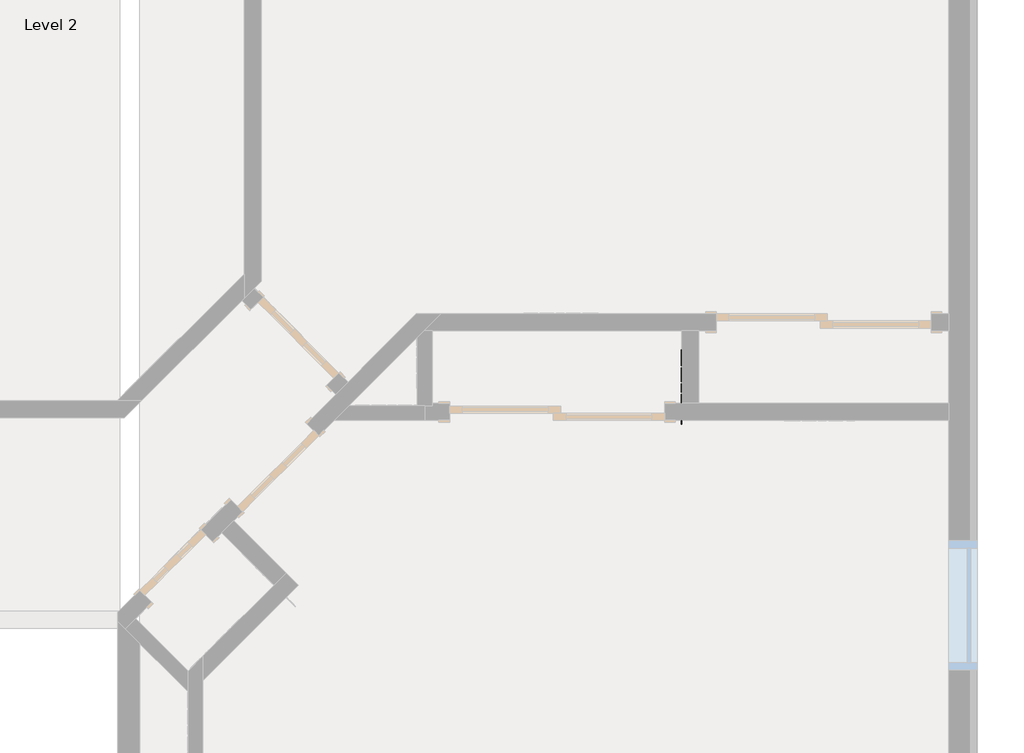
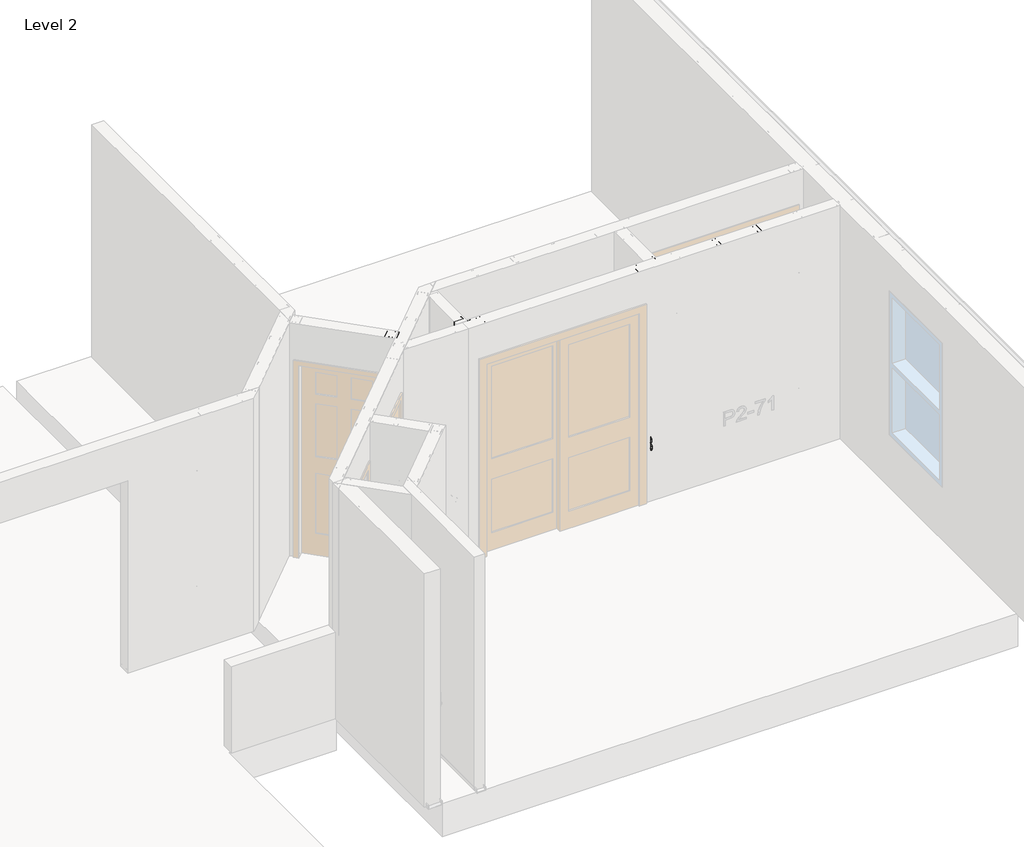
# One storey, part 40 of 46: 9 columns, 5 beams, 1 fastener.
"""IFC4 building model written with IfcOpenShell, lengths in millimetres."""

from ifc_helpers import new_model, si_unit, point, frame, origin, place, context, project, spatial, circle_curve, ellipse_curve, trimmed, transform, mapped, element, save
from ifc_brep_helpers import plane_surface, extruded_surface, advanced_brep
from components import beam_350nf150_33_f9f27d49, beam_350nf150_33_606cd853, beam_350nf150_33_bf93f831, beam_350nf150_33_fd0ba1fb, beam_350nf150_33_ba5f3ba1, column_350nf150_33_a93e9d8a, panellabel_073e6722

model = new_model("IFC4")

# Units and contexts
model_context = context("Model", 3, world=origin())
ifc_project = project(units=[si_unit("LENGTHUNIT", "METRE", prefix="MILLI")], contexts=[model_context])

# Site, building, storey
site = spatial("IfcSite", under=ifc_project)
building = spatial("IfcBuilding", under=site)
storey = spatial("IfcBuildingStorey", under=building, Name="Level 2", Elevation=3060.7)

# Beams
placement = place(None, origin())
beam_350nf150_33_shape = beam_350nf150_33_f9f27d49(model_context)
element("IfcBeam", 1, ObjectType="BIMSF-SSMA-S : 350NF150-33", at=placement, inside=storey, context=model_context, shape_type="MappedRepresentation", body=[
    mapped(beam_350nf150_33_shape, transform((-4226.9731197, 9615.2035298, 3076.575), x_axis=(-1.0000000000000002, 0.0, 0.0), y_axis=(0.0, 0.0, -1.0000000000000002), z_axis=(0.0, -1.0000000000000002, 0.0))),
])
beam_350nf150_33_2_shape = beam_350nf150_33_606cd853(model_context)
element("IfcBeam", 2, ObjectType="BIMSF-SSMA-S : 350NF150-33", at=placement, inside=storey, context=model_context, shape_type="MappedRepresentation", body=[
    mapped(beam_350nf150_33_2_shape, transform((-6832.1861545, 9615.2035298, 3076.575), x_axis=(-1.0000000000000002, 0.0, 0.0), y_axis=(0.0, 0.0, -1.0000000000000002), z_axis=(0.0, -1.0000000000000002, 0.0))),
])
beam_350nf150_33_3_shape = beam_350nf150_33_bf93f831(model_context)
element("IfcBeam", 3, ObjectType="BIMSF-SSMA-S : 350NF150-33", at=placement, inside=storey, context=model_context, shape_type="MappedRepresentation", body=[
    mapped(beam_350nf150_33_3_shape, transform((-6950.4549045, 9935.1465154, 3076.575), x_axis=(0.0, -1.0000000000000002, 0.0), y_axis=(0.0, 0.0, -1.0000000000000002), z_axis=(1.0000000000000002, 0.0, 0.0))),
])
beam_350nf150_33_4_shape = beam_350nf150_33_fd0ba1fb(model_context)
element("IfcBeam", 4, ObjectType="BIMSF-SSMA-S : 350NF150-33", at=placement, inside=storey, context=model_context, shape_type="MappedRepresentation", body=[
    mapped(beam_350nf150_33_4_shape, transform((-5058.8231197, 9933.1621404, 3076.575), x_axis=(0.0, 1.0000000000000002, 0.0), y_axis=(0.0, 0.0, -1.0000000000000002), z_axis=(-1.0000000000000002, 0.0, 0.0))),
])
beam_350nf150_33_5_shape = beam_350nf150_33_ba5f3ba1(model_context)
element("IfcBeam", 5, ObjectType="BIMSF-SSMA-S : 350NF150-33", at=placement, inside=storey, context=model_context, shape_type="MappedRepresentation", body=[
    mapped(beam_350nf150_33_5_shape, transform((-7556.204928, 9809.542735, 3076.575), x_axis=(0.7071067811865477, -0.7071067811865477, 0.0), y_axis=(0.0, 0.0, -1.0000000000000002), z_axis=(0.7071067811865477, 0.7071067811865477, 0.0))),
])

# Columns
element("IfcColumn", 6, ObjectType="BIMSF-SSMA-S-Column : 350NF150-33", at=placement, inside=storey, context=model_context, shape_type="AdvancedBrep", body=[
    advanced_brep(
    [(-6898.0674045, 9570.7535298, 3061.5929687), (-6898.0674045, 9659.6535298, 3061.5929687), (-6859.9674045, 9659.6535298, 3061.5929687), (-6859.9674045, 9653.996014, 3061.5929687), (-6860.8497203, 9653.996014, 3061.5929687), (-6860.8497203, 9658.771214, 3061.5929687), (-6897.1850887, 9658.771214, 3061.5929687), (-6897.1850887, 9571.6358455, 3061.5929687), (-6860.8497203, 9571.6358455, 3061.5929687), (-6860.8497203, 9576.4110455, 3061.5929687), (-6859.9674045, 9576.4110455, 3061.5929687), (-6859.9674045, 9570.7535298, 3061.5929687), (-6898.0674045, 9570.7535298, 5523.6070313), (-6898.0674045, 9659.6535298, 5523.6070313), (-6898.0674045, 9627.9035298, 3671.1929687), (-6898.0674045, 9602.5035298, 3671.1929688), (-6898.0674045, 9627.9035298, 4890.3929687), (-6898.0674045, 9602.5035298, 4890.3929687), (-6859.9674045, 9659.6535298, 5523.6070313), (-6859.9674045, 9653.996014, 5523.6070313), (-6860.8497203, 9653.996014, 5523.6070313), (-6860.8497203, 9658.771214, 5523.6070313), (-6897.1850887, 9658.771214, 5523.6070313), (-6897.1850887, 9571.6358455, 5523.6070313), (-6897.1850887, 9602.5035298, 3671.1929688), (-6897.1850887, 9627.9035298, 3671.1929688), (-6897.1850887, 9602.5035298, 4890.3929687), (-6897.1850887, 9627.9035298, 4890.3929687), (-6860.8497203, 9571.6358455, 5523.6070313), (-6860.8497203, 9576.4110455, 5523.6070313), (-6859.9674045, 9576.4110455, 5523.6070313), (-6859.9674045, 9570.7535298, 5523.6070313)],
    [
        (0, 1),
        (1, 2),
        (2, 3),
        (3, 4),
        (4, 5),
        (5, 6),
        (6, 7),
        (7, 8),
        (8, 9),
        (9, 10),
        (10, 11),
        (11, 0),
        (0, 12),
        (12, 13),
        (13, 1),
        (14, 15, circle_curve(frame((-6898.0674045, 9615.2035298, 3671.1929687), z_axis=(1.0, 0.0, 0.0), x_axis=(0.0, 1.0, 0.0)), 12.7)),
        (15, 14, circle_curve(frame((-6898.0674045, 9615.2035298, 3671.1929687), z_axis=(1.0, 0.0, 0.0), x_axis=(0.0, 1.0, 0.0)), 12.7)),
        (16, 17, circle_curve(frame((-6898.0674045, 9615.2035298, 4890.3929687), z_axis=(1.0, 0.0, 0.0), x_axis=(0.0, 1.0, 0.0)), 12.7)),
        (17, 16, circle_curve(frame((-6898.0674045, 9615.2035298, 4890.3929687), z_axis=(1.0, 0.0, 0.0), x_axis=(0.0, 1.0, 0.0)), 12.7)),
        (13, 18),
        (18, 2),
        (18, 19),
        (19, 3),
        (19, 20),
        (20, 4),
        (20, 21),
        (21, 5),
        (21, 22),
        (22, 6),
        (22, 23),
        (23, 7),
        (24, 25, circle_curve(frame((-6897.1850887, 9615.2035298, 3671.1929688), z_axis=(-1.0, 0.0, 0.0), x_axis=(0.0, 1.0, 0.0)), 12.7)),
        (25, 24, circle_curve(frame((-6897.1850887, 9615.2035298, 3671.1929687), z_axis=(-1.0, 0.0, 0.0), x_axis=(0.0, 1.0, 0.0)), 12.7)),
        (26, 27, circle_curve(frame((-6897.1850887, 9615.2035298, 4890.3929687), z_axis=(-1.0, 0.0, 0.0), x_axis=(0.0, 1.0, 0.0)), 12.7)),
        (27, 26, circle_curve(frame((-6897.1850887, 9615.2035298, 4890.3929687), z_axis=(-1.0, 0.0, 0.0), x_axis=(0.0, 1.0, 0.0)), 12.7)),
        (23, 28),
        (28, 8),
        (28, 29),
        (29, 9),
        (29, 30),
        (30, 10),
        (30, 31),
        (31, 11),
        (31, 12),
        (24, 15),
        (14, 25),
        (26, 17),
        (16, 27),
    ],
    [
        plane_surface(frame((-6898.0674045, 9570.7535298, 3061.5929687), z_axis=(0.0, 0.0, -1.0), x_axis=(-1.0, 0.0, 0.0))),
        plane_surface(frame((-6898.0674045, 9659.6535298, 5523.6070313), z_axis=(-1.0, 0.0, 0.0), x_axis=(0.0, 0.0, -1.0))),
        plane_surface(frame((-6859.9674045, 9659.6535298, 5523.6070313), z_axis=(0.0, 1.0, 0.0), x_axis=(0.0, 0.0, -1.0))),
        plane_surface(frame((-6859.9674045, 9653.996014, 5523.6070313), z_axis=(1.0, 0.0, 0.0), x_axis=(0.0, 0.0, -1.0))),
        plane_surface(frame((-6860.8497203, 9653.996014, 5523.6070313), z_axis=(0.0, -1.0, 0.0), x_axis=(0.0, 0.0, -1.0))),
        plane_surface(frame((-6860.8497203, 9658.771214, 5523.6070313), z_axis=(-1.0, 0.0, 0.0), x_axis=(0.0, 0.0, -1.0))),
        plane_surface(frame((-6897.1850887, 9658.771214, 5523.6070313), z_axis=(0.0, -1.0, 0.0), x_axis=(0.0, 0.0, -1.0))),
        plane_surface(frame((-6897.1850887, 9571.6358455, 5523.6070313), z_axis=(1.0, 0.0, 0.0), x_axis=(0.0, 0.0, -1.0))),
        plane_surface(frame((-6860.8497203, 9571.6358455, 5523.6070313), z_axis=(0.0, 1.0, 0.0), x_axis=(0.0, 0.0, -1.0))),
        plane_surface(frame((-6860.8497203, 9576.4110455, 5523.6070313), z_axis=(-1.0, 0.0, 0.0), x_axis=(0.0, 0.0, -1.0))),
        plane_surface(frame((-6859.9674045, 9576.4110455, 5523.6070313), z_axis=(0.0, 1.0, 0.0), x_axis=(0.0, 0.0, -1.0))),
        plane_surface(frame((-6859.9674045, 9570.7535298, 5523.6070313), z_axis=(1.0, 0.0, 0.0), x_axis=(0.0, 0.0, -1.0))),
        plane_surface(frame((-6898.0674045, 9570.7535298, 5523.6070313), z_axis=(0.0, -1.0, 0.0), x_axis=(0.0, 0.0, -1.0))),
        plane_surface(frame((-6898.0674045, 9570.7535298, 5523.6070313), z_axis=(0.0, 0.0, 1.0), x_axis=(1.0, 0.0, 0.0))),
        extruded_surface(trimmed(ellipse_curve(frame((-4417.003342, 9615.2035298, 3671.1929688), z_axis=(-1.0, 0.0, 0.0), x_axis=(0.0, 1.0, 0.0)), 12.7, 12.7), [point((-4417.003342, 9602.5035298, 3671.1929688))], [point((-4417.003342, 9627.9035298, 3671.1929688))], True, "CARTESIAN"), (4924.028125, 0.0, 0.0), 4924.028125),
        extruded_surface(trimmed(ellipse_curve(frame((-4417.003342, 9615.2035298, 3671.1929688), z_axis=(-1.0, 0.0, 0.0), x_axis=(0.0, 1.0, 0.0)), 12.7, 12.7), [point((-4417.003342, 9627.9035298, 3671.1929688))], [point((-4417.003342, 9602.5035298, 3671.1929688))], True, "CARTESIAN"), (4924.028125, 0.0, 0.0), 4924.028125),
        extruded_surface(trimmed(ellipse_curve(frame((-4417.003342, 9615.2035298, 4890.3929687), z_axis=(-1.0, 0.0, 0.0), x_axis=(0.0, 1.0, 0.0)), 12.7, 12.7), [point((-4417.003342, 9602.5035298, 4890.3929687))], [point((-4417.003342, 9627.9035298, 4890.3929687))], True, "CARTESIAN"), (4924.028125, 0.0, 0.0), 4924.028125),
        extruded_surface(trimmed(ellipse_curve(frame((-4417.003342, 9615.2035298, 4890.3929687), z_axis=(-1.0, 0.0, 0.0), x_axis=(0.0, 1.0, 0.0)), 12.7, 12.7), [point((-4417.003342, 9627.9035298, 4890.3929687))], [point((-4417.003342, 9602.5035298, 4890.3929687))], True, "CARTESIAN"), (4924.028125, 0.0, 0.0), 4924.028125),
    ],
    [
        (0, [[1, 2, 3, 4, 5, 6, 7, 8, 9, 10, 11, 12]]),
        (1, [[-1, 13, 14, 15], [16, 17], [18, 19]]),
        (2, [[-2, -15, 20, 21]]),
        (3, [[-3, -21, 22, 23]]),
        (4, [[-4, -23, 24, 25]]),
        (5, [[-5, -25, 26, 27]]),
        (6, [[-6, -27, 28, 29]]),
        (7, [[-7, -29, 30, 31], [32, 33], [34, 35]]),
        (8, [[-8, -31, 36, 37]]),
        (9, [[-9, -37, 38, 39]]),
        (10, [[-10, -39, 40, 41]]),
        (11, [[-11, -41, 42, 43]]),
        (12, [[-12, -43, 44, -13]]),
        (13, [[-14, -44, -42, -40, -38, -36, -30, -28, -26, -24, -22, -20]]),
        (14, [[45, -16, 46, -32]]),
        (15, [[-45, -33, -46, -17]]),
        (16, [[47, -18, 48, -34]]),
        (17, [[-47, -35, -48, -19]]),
    ],
),
])
element("IfcColumn", 7, ObjectType="BIMSF-SSMA-S-Column : 350NF150-33", at=placement, inside=storey, context=model_context, shape_type="AdvancedBrep", body=[
    advanced_brep(
    [(-4005.3913349, 9659.6535298, 3061.5929687), (-4005.3913349, 9570.7535298, 3061.5929687), (-4043.4913349, 9570.7535298, 3061.5929687), (-4043.4913349, 9576.4110455, 3061.5929687), (-4042.6090191, 9576.4110455, 3061.5929687), (-4042.6090191, 9571.6358455, 3061.5929687), (-4006.2736507, 9571.6358455, 3061.5929687), (-4006.2736507, 9658.771214, 3061.5929687), (-4042.6090191, 9658.771214, 3061.5929687), (-4042.6090191, 9653.996014, 3061.5929687), (-4043.4913349, 9653.996014, 3061.5929687), (-4043.4913349, 9659.6535298, 3061.5929687), (-4005.3913349, 9659.6535298, 5523.6070313), (-4005.3913349, 9570.7535298, 5523.6070313), (-4005.3913349, 9602.5035298, 3671.1929688), (-4005.3913349, 9627.9035298, 3671.1929687), (-4005.3913349, 9602.5035298, 4890.3929688), (-4005.3913349, 9627.9035298, 4890.3929687), (-4043.4913349, 9570.7535298, 5523.6070313), (-4043.4913349, 9576.4110455, 5523.6070313), (-4042.6090191, 9576.4110455, 5523.6070313), (-4042.6090191, 9571.6358455, 5523.6070313), (-4006.2736507, 9571.6358455, 5523.6070313), (-4006.2736507, 9658.771214, 5523.6070313), (-4006.2736507, 9627.9035298, 3671.1929687), (-4006.2736507, 9602.5035298, 3671.1929688), (-4006.2736507, 9627.9035298, 4890.3929687), (-4006.2736507, 9602.5035298, 4890.3929688), (-4042.6090191, 9658.771214, 5523.6070313), (-4042.6090191, 9653.996014, 5523.6070313), (-4043.4913349, 9653.996014, 5523.6070313), (-4043.4913349, 9659.6535298, 5523.6070313)],
    [
        (0, 1),
        (1, 2),
        (2, 3),
        (3, 4),
        (4, 5),
        (5, 6),
        (6, 7),
        (7, 8),
        (8, 9),
        (9, 10),
        (10, 11),
        (11, 0),
        (0, 12),
        (12, 13),
        (13, 1),
        (14, 15, circle_curve(frame((-4005.3913349, 9615.2035298, 3671.1929687), z_axis=(-1.0, 0.0, 0.0), x_axis=(0.0, -1.0, 0.0)), 12.7)),
        (15, 14, circle_curve(frame((-4005.3913349, 9615.2035298, 3671.1929687), z_axis=(-1.0, 0.0, 0.0), x_axis=(0.0, -1.0, 0.0)), 12.7)),
        (16, 17, circle_curve(frame((-4005.3913349, 9615.2035298, 4890.3929687), z_axis=(-1.0, 0.0, 0.0), x_axis=(0.0, -1.0, 0.0)), 12.7)),
        (17, 16, circle_curve(frame((-4005.3913349, 9615.2035298, 4890.3929687), z_axis=(-1.0, 0.0, 0.0), x_axis=(0.0, -1.0, 0.0)), 12.7)),
        (13, 18),
        (18, 2),
        (18, 19),
        (19, 3),
        (19, 20),
        (20, 4),
        (20, 21),
        (21, 5),
        (21, 22),
        (22, 6),
        (22, 23),
        (23, 7),
        (24, 25, circle_curve(frame((-4006.2736507, 9615.2035298, 3671.1929688), z_axis=(1.0, 0.0, 0.0), x_axis=(0.0, -1.0, 0.0)), 12.7)),
        (25, 24, circle_curve(frame((-4006.2736507, 9615.2035298, 3671.1929688), z_axis=(1.0, 0.0, 0.0), x_axis=(0.0, -1.0, 0.0)), 12.7)),
        (26, 27, circle_curve(frame((-4006.2736507, 9615.2035298, 4890.3929687), z_axis=(1.0, 0.0, 0.0), x_axis=(0.0, -1.0, 0.0)), 12.7)),
        (27, 26, circle_curve(frame((-4006.2736507, 9615.2035298, 4890.3929687), z_axis=(1.0, 0.0, 0.0), x_axis=(0.0, -1.0, 0.0)), 12.7)),
        (23, 28),
        (28, 8),
        (28, 29),
        (29, 9),
        (29, 30),
        (30, 10),
        (30, 31),
        (31, 11),
        (31, 12),
        (24, 15),
        (14, 25),
        (26, 17),
        (16, 27),
    ],
    [
        plane_surface(frame((-4005.3913349, 9659.6535298, 3061.5929687), z_axis=(0.0, 0.0, -1.0), x_axis=(1.0, 0.0, 0.0))),
        plane_surface(frame((-4005.3913349, 9570.7535298, 5523.6070313), z_axis=(1.0, 0.0, 0.0), x_axis=(0.0, 0.0, -1.0))),
        plane_surface(frame((-4043.4913349, 9570.7535298, 5523.6070313), z_axis=(0.0, -1.0, 0.0), x_axis=(0.0, 0.0, -1.0))),
        plane_surface(frame((-4043.4913349, 9576.4110455, 5523.6070313), z_axis=(-1.0, 0.0, 0.0), x_axis=(0.0, 0.0, -1.0))),
        plane_surface(frame((-4042.6090191, 9576.4110455, 5523.6070313), z_axis=(0.0, 1.0, 0.0), x_axis=(0.0, 0.0, -1.0))),
        plane_surface(frame((-4042.6090191, 9571.6358455, 5523.6070313), z_axis=(1.0, 0.0, 0.0), x_axis=(0.0, 0.0, -1.0))),
        plane_surface(frame((-4006.2736507, 9571.6358455, 5523.6070313), z_axis=(0.0, 1.0, 0.0), x_axis=(0.0, 0.0, -1.0))),
        plane_surface(frame((-4006.2736507, 9658.771214, 5523.6070313), z_axis=(-1.0, 0.0, 0.0), x_axis=(0.0, 0.0, -1.0))),
        plane_surface(frame((-4042.6090191, 9658.771214, 5523.6070313), z_axis=(0.0, -1.0, 0.0), x_axis=(0.0, 0.0, -1.0))),
        plane_surface(frame((-4042.6090191, 9653.996014, 5523.6070313), z_axis=(1.0, 0.0, 0.0), x_axis=(0.0, 0.0, -1.0))),
        plane_surface(frame((-4043.4913349, 9653.996014, 5523.6070313), z_axis=(0.0, -1.0, 0.0), x_axis=(0.0, 0.0, -1.0))),
        plane_surface(frame((-4043.4913349, 9659.6535298, 5523.6070313), z_axis=(-1.0, 0.0, 0.0), x_axis=(0.0, 0.0, -1.0))),
        plane_surface(frame((-4005.3913349, 9659.6535298, 5523.6070313), z_axis=(0.0, 1.0, 0.0), x_axis=(0.0, 0.0, -1.0))),
        plane_surface(frame((-4005.3913349, 9659.6535298, 5523.6070313), z_axis=(0.0, 0.0, 1.0), x_axis=(-1.0, 0.0, 0.0))),
        extruded_surface(trimmed(ellipse_curve(frame((-6486.4553974, 9615.2035298, 3671.1929688), z_axis=(1.0, 0.0, 0.0), x_axis=(0.0, -1.0, 0.0)), 12.7, 12.7), [point((-6486.4553974, 9627.9035298, 3671.1929688))], [point((-6486.4553974, 9602.5035298, 3671.1929688))], True, "CARTESIAN"), (-4924.028125, 0.0, 0.0), 4924.028125),
        extruded_surface(trimmed(ellipse_curve(frame((-6486.4553974, 9615.2035298, 3671.1929688), z_axis=(1.0, 0.0, 0.0), x_axis=(0.0, -1.0, 0.0)), 12.7, 12.7), [point((-6486.4553974, 9602.5035298, 3671.1929688))], [point((-6486.4553974, 9627.9035298, 3671.1929688))], True, "CARTESIAN"), (-4924.028125, 0.0, 0.0), 4924.028125),
        extruded_surface(trimmed(ellipse_curve(frame((-6486.4553974, 9615.2035298, 4890.3929687), z_axis=(1.0, 0.0, 0.0), x_axis=(0.0, -1.0, 0.0)), 12.7, 12.7), [point((-6486.4553974, 9627.9035298, 4890.3929687))], [point((-6486.4553974, 9602.5035298, 4890.3929687))], True, "CARTESIAN"), (-4924.028125, 0.0, 0.0), 4924.028125),
        extruded_surface(trimmed(ellipse_curve(frame((-6486.4553974, 9615.2035298, 4890.3929687), z_axis=(1.0, 0.0, 0.0), x_axis=(0.0, -1.0, 0.0)), 12.7, 12.7), [point((-6486.4553974, 9602.5035298, 4890.3929687))], [point((-6486.4553974, 9627.9035298, 4890.3929687))], True, "CARTESIAN"), (-4924.028125, 0.0, 0.0), 4924.028125),
    ],
    [
        (0, [[1, 2, 3, 4, 5, 6, 7, 8, 9, 10, 11, 12]]),
        (1, [[-1, 13, 14, 15], [16, 17], [18, 19]]),
        (2, [[-2, -15, 20, 21]]),
        (3, [[-3, -21, 22, 23]]),
        (4, [[-4, -23, 24, 25]]),
        (5, [[-5, -25, 26, 27]]),
        (6, [[-6, -27, 28, 29]]),
        (7, [[-7, -29, 30, 31], [32, 33], [34, 35]]),
        (8, [[-8, -31, 36, 37]]),
        (9, [[-9, -37, 38, 39]]),
        (10, [[-10, -39, 40, 41]]),
        (11, [[-11, -41, 42, 43]]),
        (12, [[-12, -43, 44, -13]]),
        (13, [[-14, -44, -42, -40, -38, -36, -30, -28, -26, -24, -22, -20]]),
        (14, [[45, -16, 46, -32]]),
        (15, [[-45, -33, -46, -17]]),
        (16, [[47, -18, 48, -34]]),
        (17, [[-47, -35, -48, -19]]),
    ],
),
])
element("IfcColumn", 8, ObjectType="BIMSF-SSMA-S-Column : 350NF150-33", at=placement, inside=storey, context=model_context, shape_type="AdvancedBrep", body=[
    advanced_brep(
    [(-4411.7913349, 9659.6535298, 3061.5929687), (-4411.7913349, 9570.7535298, 3061.5929687), (-4449.8913349, 9570.7535298, 3061.5929687), (-4449.8913349, 9576.4110455, 3061.5929687), (-4449.0090191, 9576.4110455, 3061.5929687), (-4449.0090191, 9571.6358455, 3061.5929687), (-4412.6736507, 9571.6358455, 3061.5929687), (-4412.6736507, 9658.771214, 3061.5929687), (-4449.0090191, 9658.771214, 3061.5929687), (-4449.0090191, 9653.996014, 3061.5929687), (-4449.8913349, 9653.996014, 3061.5929687), (-4449.8913349, 9659.6535298, 3061.5929687), (-4411.7913349, 9659.6535298, 5523.6070313), (-4411.7913349, 9570.7535298, 5523.6070313), (-4411.7913349, 9602.5035298, 3671.1929688), (-4411.7913349, 9627.9035298, 3671.1929688), (-4411.7913349, 9602.5035298, 4890.3929687), (-4411.7913349, 9627.9035298, 4890.3929687), (-4449.8913349, 9570.7535298, 5523.6070313), (-4449.8913349, 9576.4110455, 5523.6070313), (-4449.0090191, 9576.4110455, 5523.6070313), (-4449.0090191, 9571.6358455, 5523.6070313), (-4412.6736507, 9571.6358455, 5523.6070313), (-4412.6736507, 9658.771214, 5523.6070313), (-4412.6736507, 9627.9035298, 3671.1929688), (-4412.6736507, 9602.5035298, 3671.1929688), (-4412.6736507, 9627.9035298, 4890.3929688), (-4412.6736507, 9602.5035298, 4890.3929688), (-4449.0090191, 9658.771214, 5523.6070313), (-4449.0090191, 9653.996014, 5523.6070313), (-4449.8913349, 9653.996014, 5523.6070313), (-4449.8913349, 9659.6535298, 5523.6070313)],
    [
        (0, 1),
        (1, 2),
        (2, 3),
        (3, 4),
        (4, 5),
        (5, 6),
        (6, 7),
        (7, 8),
        (8, 9),
        (9, 10),
        (10, 11),
        (11, 0),
        (0, 12),
        (12, 13),
        (13, 1),
        (14, 15, circle_curve(frame((-4411.7913349, 9615.2035298, 3671.1929688), z_axis=(-1.0, 0.0, 0.0), x_axis=(0.0, -1.0, 0.0)), 12.7)),
        (15, 14, circle_curve(frame((-4411.7913349, 9615.2035298, 3671.1929688), z_axis=(-1.0, 0.0, 0.0), x_axis=(0.0, -1.0, 0.0)), 12.7)),
        (16, 17, circle_curve(frame((-4411.7913349, 9615.2035298, 4890.3929688), z_axis=(-1.0, 0.0, 0.0), x_axis=(0.0, -1.0, 0.0)), 12.7)),
        (17, 16, circle_curve(frame((-4411.7913349, 9615.2035298, 4890.3929688), z_axis=(-1.0, 0.0, 0.0), x_axis=(0.0, -1.0, 0.0)), 12.7)),
        (13, 18),
        (18, 2),
        (18, 19),
        (19, 3),
        (19, 20),
        (20, 4),
        (20, 21),
        (21, 5),
        (21, 22),
        (22, 6),
        (22, 23),
        (23, 7),
        (24, 25, circle_curve(frame((-4412.6736507, 9615.2035298, 3671.1929688), z_axis=(1.0, 0.0, 0.0), x_axis=(0.0, -1.0, 0.0)), 12.7)),
        (25, 24, circle_curve(frame((-4412.6736507, 9615.2035298, 3671.1929688), z_axis=(1.0, 0.0, 0.0), x_axis=(0.0, -1.0, 0.0)), 12.7)),
        (26, 27, circle_curve(frame((-4412.6736507, 9615.2035298, 4890.3929687), z_axis=(1.0, 0.0, 0.0), x_axis=(0.0, -1.0, 0.0)), 12.7)),
        (27, 26, circle_curve(frame((-4412.6736507, 9615.2035298, 4890.3929687), z_axis=(1.0, 0.0, 0.0), x_axis=(0.0, -1.0, 0.0)), 12.7)),
        (23, 28),
        (28, 8),
        (28, 29),
        (29, 9),
        (29, 30),
        (30, 10),
        (30, 31),
        (31, 11),
        (31, 12),
        (24, 15),
        (14, 25),
        (26, 17),
        (16, 27),
    ],
    [
        plane_surface(frame((-4411.7913349, 9659.6535298, 3061.5929687), z_axis=(0.0, 0.0, -1.0), x_axis=(1.0, 0.0, 0.0))),
        plane_surface(frame((-4411.7913349, 9570.7535298, 5523.6070313), z_axis=(1.0, 0.0, 0.0), x_axis=(0.0, 0.0, -1.0))),
        plane_surface(frame((-4449.8913349, 9570.7535298, 5523.6070313), z_axis=(0.0, -1.0, 0.0), x_axis=(0.0, 0.0, -1.0))),
        plane_surface(frame((-4449.8913349, 9576.4110455, 5523.6070313), z_axis=(-1.0, 0.0, 0.0), x_axis=(0.0, 0.0, -1.0))),
        plane_surface(frame((-4449.0090191, 9576.4110455, 5523.6070313), z_axis=(0.0, 1.0, 0.0), x_axis=(0.0, 0.0, -1.0))),
        plane_surface(frame((-4449.0090191, 9571.6358455, 5523.6070313), z_axis=(1.0, 0.0, 0.0), x_axis=(0.0, 0.0, -1.0))),
        plane_surface(frame((-4412.6736507, 9571.6358455, 5523.6070313), z_axis=(0.0, 1.0, 0.0), x_axis=(0.0, 0.0, -1.0))),
        plane_surface(frame((-4412.6736507, 9658.771214, 5523.6070313), z_axis=(-1.0, 0.0, 0.0), x_axis=(0.0, 0.0, -1.0))),
        plane_surface(frame((-4449.0090191, 9658.771214, 5523.6070313), z_axis=(0.0, -1.0, 0.0), x_axis=(0.0, 0.0, -1.0))),
        plane_surface(frame((-4449.0090191, 9653.996014, 5523.6070313), z_axis=(1.0, 0.0, 0.0), x_axis=(0.0, 0.0, -1.0))),
        plane_surface(frame((-4449.8913349, 9653.996014, 5523.6070313), z_axis=(0.0, -1.0, 0.0), x_axis=(0.0, 0.0, -1.0))),
        plane_surface(frame((-4449.8913349, 9659.6535298, 5523.6070313), z_axis=(-1.0, 0.0, 0.0), x_axis=(0.0, 0.0, -1.0))),
        plane_surface(frame((-4411.7913349, 9659.6535298, 5523.6070313), z_axis=(0.0, 1.0, 0.0), x_axis=(0.0, 0.0, -1.0))),
        plane_surface(frame((-4411.7913349, 9659.6535298, 5523.6070313), z_axis=(0.0, 0.0, 1.0), x_axis=(-1.0, 0.0, 0.0))),
        extruded_surface(trimmed(ellipse_curve(frame((-6892.8553974, 9615.2035298, 3671.1929688), z_axis=(1.0, 0.0, 0.0), x_axis=(0.0, -1.0, 0.0)), 12.7, 12.7), [point((-6892.8553974, 9627.9035298, 3671.1929688))], [point((-6892.8553974, 9602.5035298, 3671.1929688))], True, "CARTESIAN"), (-4924.028125, 0.0, 0.0), 4924.028125),
        extruded_surface(trimmed(ellipse_curve(frame((-6892.8553974, 9615.2035298, 3671.1929688), z_axis=(1.0, 0.0, 0.0), x_axis=(0.0, -1.0, 0.0)), 12.7, 12.7), [point((-6892.8553974, 9602.5035298, 3671.1929688))], [point((-6892.8553974, 9627.9035298, 3671.1929688))], True, "CARTESIAN"), (-4924.028125, 0.0, 0.0), 4924.028125),
        extruded_surface(trimmed(ellipse_curve(frame((-6892.8553974, 9615.2035298, 4890.3929687), z_axis=(1.0, 0.0, 0.0), x_axis=(0.0, -1.0, 0.0)), 12.7, 12.7), [point((-6892.8553974, 9627.9035298, 4890.3929687))], [point((-6892.8553974, 9602.5035298, 4890.3929687))], True, "CARTESIAN"), (-4924.028125, 0.0, 0.0), 4924.028125),
        extruded_surface(trimmed(ellipse_curve(frame((-6892.8553974, 9615.2035298, 4890.3929687), z_axis=(1.0, 0.0, 0.0), x_axis=(0.0, -1.0, 0.0)), 12.7, 12.7), [point((-6892.8553974, 9602.5035298, 4890.3929687))], [point((-6892.8553974, 9627.9035298, 4890.3929687))], True, "CARTESIAN"), (-4924.028125, 0.0, 0.0), 4924.028125),
    ],
    [
        (0, [[1, 2, 3, 4, 5, 6, 7, 8, 9, 10, 11, 12]]),
        (1, [[-1, 13, 14, 15], [16, 17], [18, 19]]),
        (2, [[-2, -15, 20, 21]]),
        (3, [[-3, -21, 22, 23]]),
        (4, [[-4, -23, 24, 25]]),
        (5, [[-5, -25, 26, 27]]),
        (6, [[-6, -27, 28, 29]]),
        (7, [[-7, -29, 30, 31], [32, 33], [34, 35]]),
        (8, [[-8, -31, 36, 37]]),
        (9, [[-9, -37, 38, 39]]),
        (10, [[-10, -39, 40, 41]]),
        (11, [[-11, -41, 42, 43]]),
        (12, [[-12, -43, 44, -13]]),
        (13, [[-14, -44, -42, -40, -38, -36, -30, -28, -26, -24, -22, -20]]),
        (14, [[45, -16, 46, -32]]),
        (15, [[-45, -33, -46, -17]]),
        (16, [[47, -18, 48, -34]]),
        (17, [[-47, -35, -48, -19]]),
    ],
),
])
element("IfcColumn", 9, ObjectType="BIMSF-SSMA-S-Column : 350NF150-33", at=placement, inside=storey, context=model_context, shape_type="AdvancedBrep", body=[
    advanced_brep(
    [(-6906.0049045, 9704.1035298, 3061.5929687), (-6994.9049045, 9704.1035298, 3061.5929687), (-6994.9049045, 9742.2035298, 3061.5929687), (-6989.2473887, 9742.2035298, 3061.5929687), (-6989.2473887, 9741.321214, 3061.5929687), (-6994.0225887, 9741.321214, 3061.5929687), (-6994.0225887, 9704.9858455, 3061.5929687), (-6906.8872203, 9704.9858455, 3061.5929687), (-6906.8872203, 9741.321214, 3061.5929687), (-6911.6624203, 9741.321214, 3061.5929687), (-6911.6624203, 9742.2035298, 3061.5929687), (-6906.0049045, 9742.2035298, 3061.5929687), (-6906.0049045, 9704.1035298, 5523.6070313), (-6994.9049045, 9704.1035298, 5523.6070313), (-6963.1549045, 9704.1035298, 3671.1929688), (-6937.7549045, 9704.1035298, 3671.1929688), (-6963.1549045, 9704.1035298, 4890.3929687), (-6937.7549045, 9704.1035298, 4890.3929687), (-6994.9049045, 9742.2035298, 5523.6070313), (-6989.2473887, 9742.2035298, 5523.6070313), (-6989.2473887, 9741.321214, 5523.6070313), (-6994.0225887, 9741.321214, 5523.6070313), (-6994.0225887, 9704.9858455, 5523.6070313), (-6906.8872203, 9704.9858455, 5523.6070313), (-6937.7549045, 9704.9858455, 3671.1929688), (-6963.1549045, 9704.9858455, 3671.1929688), (-6937.7549045, 9704.9858455, 4890.3929688), (-6963.1549045, 9704.9858455, 4890.3929688), (-6906.8872203, 9741.321214, 5523.6070313), (-6911.6624203, 9741.321214, 5523.6070313), (-6911.6624203, 9742.2035298, 5523.6070313), (-6906.0049045, 9742.2035298, 5523.6070313)],
    [
        (0, 1),
        (1, 2),
        (2, 3),
        (3, 4),
        (4, 5),
        (5, 6),
        (6, 7),
        (7, 8),
        (8, 9),
        (9, 10),
        (10, 11),
        (11, 0),
        (0, 12),
        (12, 13),
        (13, 1),
        (14, 15, circle_curve(frame((-6950.4549045, 9704.1035298, 3671.1929688), z_axis=(0.0, 1.0, 0.0), x_axis=(-1.0, 0.0, 0.0)), 12.7)),
        (15, 14, circle_curve(frame((-6950.4549045, 9704.1035298, 3671.1929688), z_axis=(0.0, 1.0, 0.0), x_axis=(-1.0, 0.0, 0.0)), 12.7)),
        (16, 17, circle_curve(frame((-6950.4549045, 9704.1035298, 4890.3929687), z_axis=(0.0, 1.0, 0.0), x_axis=(-1.0, 0.0, 0.0)), 12.7)),
        (17, 16, circle_curve(frame((-6950.4549045, 9704.1035298, 4890.3929687), z_axis=(0.0, 1.0, 0.0), x_axis=(-1.0, 0.0, 0.0)), 12.7)),
        (13, 18),
        (18, 2),
        (18, 19),
        (19, 3),
        (19, 20),
        (20, 4),
        (20, 21),
        (21, 5),
        (21, 22),
        (22, 6),
        (22, 23),
        (23, 7),
        (24, 25, circle_curve(frame((-6950.4549045, 9704.9858455, 3671.1929687), z_axis=(0.0, -1.0, 0.0), x_axis=(-1.0, 0.0, 0.0)), 12.7)),
        (25, 24, circle_curve(frame((-6950.4549045, 9704.9858455, 3671.1929688), z_axis=(0.0, -1.0, 0.0), x_axis=(-1.0, 0.0, 0.0)), 12.7)),
        (26, 27, circle_curve(frame((-6950.4549045, 9704.9858455, 4890.3929687), z_axis=(0.0, -1.0, 0.0), x_axis=(-1.0, 0.0, 0.0)), 12.7)),
        (27, 26, circle_curve(frame((-6950.4549045, 9704.9858455, 4890.3929687), z_axis=(0.0, -1.0, 0.0), x_axis=(-1.0, 0.0, 0.0)), 12.7)),
        (23, 28),
        (28, 8),
        (28, 29),
        (29, 9),
        (29, 30),
        (30, 10),
        (30, 31),
        (31, 11),
        (31, 12),
        (24, 15),
        (14, 25),
        (26, 17),
        (16, 27),
    ],
    [
        plane_surface(frame((-6906.0049045, 9704.1035298, 3061.5929687), z_axis=(0.0, 0.0, -1.0), x_axis=(0.0, -1.0, 0.0))),
        plane_surface(frame((-6994.9049045, 9704.1035298, 5523.6070313), z_axis=(0.0, -1.0, 0.0), x_axis=(0.0, 0.0, -1.0))),
        plane_surface(frame((-6994.9049045, 9742.2035298, 5523.6070313), z_axis=(-1.0, 0.0, 0.0), x_axis=(0.0, 0.0, -1.0))),
        plane_surface(frame((-6989.2473887, 9742.2035298, 5523.6070313), z_axis=(0.0, 1.0, 0.0), x_axis=(0.0, 0.0, -1.0))),
        plane_surface(frame((-6989.2473887, 9741.321214, 5523.6070313), z_axis=(1.0, 0.0, 0.0), x_axis=(0.0, 0.0, -1.0))),
        plane_surface(frame((-6994.0225887, 9741.321214, 5523.6070313), z_axis=(0.0, -1.0, 0.0), x_axis=(0.0, 0.0, -1.0))),
        plane_surface(frame((-6994.0225887, 9704.9858455, 5523.6070313), z_axis=(1.0, 0.0, 0.0), x_axis=(0.0, 0.0, -1.0))),
        plane_surface(frame((-6906.8872203, 9704.9858455, 5523.6070313), z_axis=(0.0, 1.0, 0.0), x_axis=(0.0, 0.0, -1.0))),
        plane_surface(frame((-6906.8872203, 9741.321214, 5523.6070313), z_axis=(-1.0, 0.0, 0.0), x_axis=(0.0, 0.0, -1.0))),
        plane_surface(frame((-6911.6624203, 9741.321214, 5523.6070313), z_axis=(0.0, -1.0, 0.0), x_axis=(0.0, 0.0, -1.0))),
        plane_surface(frame((-6911.6624203, 9742.2035298, 5523.6070313), z_axis=(-1.0, 0.0, 0.0), x_axis=(0.0, 0.0, -1.0))),
        plane_surface(frame((-6906.0049045, 9742.2035298, 5523.6070313), z_axis=(0.0, 1.0, 0.0), x_axis=(0.0, 0.0, -1.0))),
        plane_surface(frame((-6906.0049045, 9704.1035298, 5523.6070313), z_axis=(1.0, 0.0, 0.0), x_axis=(0.0, 0.0, -1.0))),
        plane_surface(frame((-6906.0049045, 9704.1035298, 5523.6070313), z_axis=(0.0, 0.0, 1.0), x_axis=(0.0, 1.0, 0.0))),
        extruded_surface(trimmed(ellipse_curve(frame((-6950.4549045, 12185.1675923, 3671.1929688), z_axis=(0.0, -1.0, 0.0), x_axis=(-1.0, 0.0, 0.0)), 12.7, 12.7), [point((-6937.7549045, 12185.1675923, 3671.1929688))], [point((-6963.1549045, 12185.1675923, 3671.1929688))], True, "CARTESIAN"), (0.0, 4924.028125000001, 0.0), 4924.028125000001),
        extruded_surface(trimmed(ellipse_curve(frame((-6950.4549045, 12185.1675923, 3671.1929688), z_axis=(0.0, -1.0, 0.0), x_axis=(-1.0, 0.0, 0.0)), 12.7, 12.7), [point((-6963.1549045, 12185.1675923, 3671.1929688))], [point((-6937.7549045, 12185.1675923, 3671.1929688))], True, "CARTESIAN"), (0.0, 4924.028125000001, 0.0), 4924.028125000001),
        extruded_surface(trimmed(ellipse_curve(frame((-6950.4549045, 12185.1675923, 4890.3929687), z_axis=(0.0, -1.0, 0.0), x_axis=(-1.0, 0.0, 0.0)), 12.7, 12.7), [point((-6937.7549045, 12185.1675923, 4890.3929687))], [point((-6963.1549045, 12185.1675923, 4890.3929687))], True, "CARTESIAN"), (0.0, 4924.028125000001, 0.0), 4924.028125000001),
        extruded_surface(trimmed(ellipse_curve(frame((-6950.4549045, 12185.1675923, 4890.3929687), z_axis=(0.0, -1.0, 0.0), x_axis=(-1.0, 0.0, 0.0)), 12.7, 12.7), [point((-6963.1549045, 12185.1675923, 4890.3929687))], [point((-6937.7549045, 12185.1675923, 4890.3929687))], True, "CARTESIAN"), (0.0, 4924.028125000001, 0.0), 4924.028125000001),
    ],
    [
        (0, [[1, 2, 3, 4, 5, 6, 7, 8, 9, 10, 11, 12]]),
        (1, [[-1, 13, 14, 15], [16, 17], [18, 19]]),
        (2, [[-2, -15, 20, 21]]),
        (3, [[-3, -21, 22, 23]]),
        (4, [[-4, -23, 24, 25]]),
        (5, [[-5, -25, 26, 27]]),
        (6, [[-6, -27, 28, 29]]),
        (7, [[-7, -29, 30, 31], [32, 33], [34, 35]]),
        (8, [[-8, -31, 36, 37]]),
        (9, [[-9, -37, 38, 39]]),
        (10, [[-10, -39, 40, 41]]),
        (11, [[-11, -41, 42, 43]]),
        (12, [[-12, -43, 44, -13]]),
        (13, [[-14, -44, -42, -40, -38, -36, -30, -28, -26, -24, -22, -20]]),
        (14, [[45, -16, 46, -32]]),
        (15, [[-45, -33, -46, -17]]),
        (16, [[47, -18, 48, -34]]),
        (17, [[-47, -35, -48, -19]]),
    ],
),
])
element("IfcColumn", 10, ObjectType="BIMSF-SSMA-S-Column : 350NF150-33", at=placement, inside=storey, context=model_context, shape_type="AdvancedBrep", body=[
    advanced_brep(
    [(-5014.3731197, 9659.6535298, 3061.5929687), (-5103.2731197, 9659.6535298, 3061.5929687), (-5103.2731197, 9697.7535298, 3061.5929687), (-5097.6156039, 9697.7535298, 3061.5929687), (-5097.6156039, 9696.871214, 3061.5929687), (-5102.3908039, 9696.871214, 3061.5929687), (-5102.3908039, 9660.5358455, 3061.5929687), (-5015.2554355, 9660.5358455, 3061.5929687), (-5015.2554355, 9696.871214, 3061.5929687), (-5020.0306355, 9696.871214, 3061.5929687), (-5020.0306355, 9697.7535298, 3061.5929687), (-5014.3731197, 9697.7535298, 3061.5929687), (-5014.3731197, 9659.6535298, 5523.6070313), (-5103.2731197, 9659.6535298, 5523.6070313), (-5071.5231197, 9659.6535298, 3671.1929687), (-5046.1231197, 9659.6535298, 3671.1929687), (-5071.5231197, 9659.6535298, 4890.3929687), (-5046.1231197, 9659.6535298, 4890.3929687), (-5103.2731197, 9697.7535298, 5523.6070313), (-5097.6156039, 9697.7535298, 5523.6070313), (-5097.6156039, 9696.871214, 5523.6070313), (-5102.3908039, 9696.871214, 5523.6070313), (-5102.3908039, 9660.5358455, 5523.6070313), (-5015.2554355, 9660.5358455, 5523.6070313), (-5046.1231197, 9660.5358455, 3671.1929688), (-5071.5231197, 9660.5358455, 3671.1929688), (-5046.1231197, 9660.5358455, 4890.3929687), (-5071.5231197, 9660.5358455, 4890.3929687), (-5015.2554355, 9696.871214, 5523.6070313), (-5020.0306355, 9696.871214, 5523.6070313), (-5020.0306355, 9697.7535298, 5523.6070313), (-5014.3731197, 9697.7535298, 5523.6070313)],
    [
        (0, 1),
        (1, 2),
        (2, 3),
        (3, 4),
        (4, 5),
        (5, 6),
        (6, 7),
        (7, 8),
        (8, 9),
        (9, 10),
        (10, 11),
        (11, 0),
        (0, 12),
        (12, 13),
        (13, 1),
        (14, 15, circle_curve(frame((-5058.8231197, 9659.6535298, 3671.1929687), z_axis=(0.0, 1.0, 0.0), x_axis=(-1.0, 0.0, 0.0)), 12.7)),
        (15, 14, circle_curve(frame((-5058.8231197, 9659.6535298, 3671.1929688), z_axis=(0.0, 1.0, 0.0), x_axis=(-1.0, 0.0, 0.0)), 12.7)),
        (16, 17, circle_curve(frame((-5058.8231197, 9659.6535298, 4890.3929687), z_axis=(0.0, 1.0, 0.0), x_axis=(-1.0, 0.0, 0.0)), 12.7)),
        (17, 16, circle_curve(frame((-5058.8231197, 9659.6535298, 4890.3929687), z_axis=(0.0, 1.0, 0.0), x_axis=(-1.0, 0.0, 0.0)), 12.7)),
        (13, 18),
        (18, 2),
        (18, 19),
        (19, 3),
        (19, 20),
        (20, 4),
        (20, 21),
        (21, 5),
        (21, 22),
        (22, 6),
        (22, 23),
        (23, 7),
        (24, 25, circle_curve(frame((-5058.8231197, 9660.5358455, 3671.1929687), z_axis=(0.0, -1.0, 0.0), x_axis=(-1.0, 0.0, 0.0)), 12.7)),
        (25, 24, circle_curve(frame((-5058.8231197, 9660.5358455, 3671.1929687), z_axis=(0.0, -1.0, 0.0), x_axis=(-1.0, 0.0, 0.0)), 12.7)),
        (26, 27, circle_curve(frame((-5058.8231197, 9660.5358455, 4890.3929687), z_axis=(0.0, -1.0, 0.0), x_axis=(-1.0, 0.0, 0.0)), 12.7)),
        (27, 26, circle_curve(frame((-5058.8231197, 9660.5358455, 4890.3929687), z_axis=(0.0, -1.0, 0.0), x_axis=(-1.0, 0.0, 0.0)), 12.7)),
        (23, 28),
        (28, 8),
        (28, 29),
        (29, 9),
        (29, 30),
        (30, 10),
        (30, 31),
        (31, 11),
        (31, 12),
        (24, 15),
        (14, 25),
        (26, 17),
        (16, 27),
    ],
    [
        plane_surface(frame((-5014.3731197, 9659.6535298, 3061.5929687), z_axis=(0.0, 0.0, -1.0), x_axis=(0.0, -1.0, 0.0))),
        plane_surface(frame((-5103.2731197, 9659.6535298, 5523.6070313), z_axis=(0.0, -1.0, 0.0), x_axis=(0.0, 0.0, -1.0))),
        plane_surface(frame((-5103.2731197, 9697.7535298, 5523.6070313), z_axis=(-1.0, 0.0, 0.0), x_axis=(0.0, 0.0, -1.0))),
        plane_surface(frame((-5097.6156039, 9697.7535298, 5523.6070313), z_axis=(0.0, 1.0, 0.0), x_axis=(0.0, 0.0, -1.0))),
        plane_surface(frame((-5097.6156039, 9696.871214, 5523.6070313), z_axis=(1.0, 0.0, 0.0), x_axis=(0.0, 0.0, -1.0))),
        plane_surface(frame((-5102.3908039, 9696.871214, 5523.6070313), z_axis=(0.0, -1.0, 0.0), x_axis=(0.0, 0.0, -1.0))),
        plane_surface(frame((-5102.3908039, 9660.5358455, 5523.6070313), z_axis=(1.0, 0.0, 0.0), x_axis=(0.0, 0.0, -1.0))),
        plane_surface(frame((-5015.2554355, 9660.5358455, 5523.6070313), z_axis=(0.0, 1.0, 0.0), x_axis=(0.0, 0.0, -1.0))),
        plane_surface(frame((-5015.2554355, 9696.871214, 5523.6070313), z_axis=(-1.0, 0.0, 0.0), x_axis=(0.0, 0.0, -1.0))),
        plane_surface(frame((-5020.0306355, 9696.871214, 5523.6070313), z_axis=(0.0, -1.0, 0.0), x_axis=(0.0, 0.0, -1.0))),
        plane_surface(frame((-5020.0306355, 9697.7535298, 5523.6070313), z_axis=(-1.0, 0.0, 0.0), x_axis=(0.0, 0.0, -1.0))),
        plane_surface(frame((-5014.3731197, 9697.7535298, 5523.6070313), z_axis=(0.0, 1.0, 0.0), x_axis=(0.0, 0.0, -1.0))),
        plane_surface(frame((-5014.3731197, 9659.6535298, 5523.6070313), z_axis=(1.0, 0.0, 0.0), x_axis=(0.0, 0.0, -1.0))),
        plane_surface(frame((-5014.3731197, 9659.6535298, 5523.6070313), z_axis=(0.0, 0.0, 1.0), x_axis=(0.0, 1.0, 0.0))),
        extruded_surface(trimmed(ellipse_curve(frame((-5058.8231197, 12140.7175923, 3671.1929688), z_axis=(0.0, -1.0, 0.0), x_axis=(-1.0, 0.0, 0.0)), 12.7, 12.7), [point((-5046.1231197, 12140.7175923, 3671.1929688))], [point((-5071.5231197, 12140.7175923, 3671.1929688))], True, "CARTESIAN"), (0.0, 4924.028125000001, 0.0), 4924.028125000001),
        extruded_surface(trimmed(ellipse_curve(frame((-5058.8231197, 12140.7175923, 3671.1929688), z_axis=(0.0, -1.0, 0.0), x_axis=(-1.0, 0.0, 0.0)), 12.7, 12.7), [point((-5071.5231197, 12140.7175923, 3671.1929688))], [point((-5046.1231197, 12140.7175923, 3671.1929688))], True, "CARTESIAN"), (0.0, 4924.028125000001, 0.0), 4924.028125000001),
        extruded_surface(trimmed(ellipse_curve(frame((-5058.8231197, 12140.7175923, 4890.3929687), z_axis=(0.0, -1.0, 0.0), x_axis=(-1.0, 0.0, 0.0)), 12.7, 12.7), [point((-5046.1231197, 12140.7175923, 4890.3929687))], [point((-5071.5231197, 12140.7175923, 4890.3929687))], True, "CARTESIAN"), (0.0, 4924.028125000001, 0.0), 4924.028125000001),
        extruded_surface(trimmed(ellipse_curve(frame((-5058.8231197, 12140.7175923, 4890.3929687), z_axis=(0.0, -1.0, 0.0), x_axis=(-1.0, 0.0, 0.0)), 12.7, 12.7), [point((-5071.5231197, 12140.7175923, 4890.3929687))], [point((-5046.1231197, 12140.7175923, 4890.3929687))], True, "CARTESIAN"), (0.0, 4924.028125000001, 0.0), 4924.028125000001),
    ],
    [
        (0, [[1, 2, 3, 4, 5, 6, 7, 8, 9, 10, 11, 12]]),
        (1, [[-1, 13, 14, 15], [16, 17], [18, 19]]),
        (2, [[-2, -15, 20, 21]]),
        (3, [[-3, -21, 22, 23]]),
        (4, [[-4, -23, 24, 25]]),
        (5, [[-5, -25, 26, 27]]),
        (6, [[-6, -27, 28, 29]]),
        (7, [[-7, -29, 30, 31], [32, 33], [34, 35]]),
        (8, [[-8, -31, 36, 37]]),
        (9, [[-9, -37, 38, 39]]),
        (10, [[-10, -39, 40, 41]]),
        (11, [[-11, -41, 42, 43]]),
        (12, [[-12, -43, 44, -13]]),
        (13, [[-14, -44, -42, -40, -38, -36, -30, -28, -26, -24, -22, -20]]),
        (14, [[45, -16, 46, -32]]),
        (15, [[-45, -33, -46, -17]]),
        (16, [[47, -18, 48, -34]]),
        (17, [[-47, -35, -48, -19]]),
    ],
),
])
element("IfcColumn", 11, ObjectType="BIMSF-SSMA-S-Column : 350NF150-33", at=placement, inside=storey, context=model_context, shape_type="AdvancedBrep", body=[
    advanced_brep(
    [(-7487.1380279, 9803.3376277, 3061.5929687), (-7549.9998207, 9740.4758348, 3061.5929687), (-7576.9405891, 9767.4166032, 3061.5929687), (-7572.9401213, 9771.417071, 3061.5929687), (-7572.3162298, 9770.7931795, 3061.5929687), (-7575.6928061, 9767.4166032, 3061.5929687), (-7549.9998207, 9741.7236178, 3061.5929687), (-7488.3858108, 9803.3376277, 3061.5929687), (-7514.0787962, 9829.0306131, 3061.5929687), (-7517.4553725, 9825.6540368, 3061.5929687), (-7518.079264, 9826.2779283, 3061.5929687), (-7514.0787962, 9830.2783961, 3061.5929687), (-7487.1380279, 9803.3376277, 5523.6070313), (-7549.9998207, 9740.4758348, 5523.6070313), (-7527.5491804, 9762.9264751, 3671.1929688), (-7509.5886682, 9780.8869874, 3671.1929687), (-7527.5491804, 9762.9264751, 4890.3929687), (-7509.5886682, 9780.8869874, 4890.3929688), (-7576.9405891, 9767.4166032, 5523.6070313), (-7572.9401213, 9771.417071, 5523.6070313), (-7572.3162298, 9770.7931795, 5523.6070313), (-7575.6928061, 9767.4166032, 5523.6070313), (-7549.9998207, 9741.7236178, 5523.6070313), (-7488.3858108, 9803.3376277, 5523.6070313), (-7510.2125596, 9781.5108789, 3671.1929687), (-7528.1730719, 9763.5503666, 3671.1929688), (-7510.2125596, 9781.5108789, 4890.3929688), (-7528.1730719, 9763.5503666, 4890.3929688), (-7514.0787962, 9829.0306131, 5523.6070313), (-7517.4553725, 9825.6540368, 5523.6070313), (-7518.079264, 9826.2779283, 5523.6070313), (-7514.0787962, 9830.2783961, 5523.6070313)],
    [
        (0, 1),
        (1, 2),
        (2, 3),
        (3, 4),
        (4, 5),
        (5, 6),
        (6, 7),
        (7, 8),
        (8, 9),
        (9, 10),
        (10, 11),
        (11, 0),
        (0, 12),
        (12, 13),
        (13, 1),
        (14, 15, circle_curve(frame((-7518.5689243, 9771.9067313, 3671.1929687), z_axis=(-0.7071067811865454, 0.7071067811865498, 0.0), x_axis=(-0.7071067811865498, -0.7071067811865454, 0.0)), 12.7)),
        (15, 14, circle_curve(frame((-7518.5689243, 9771.9067313, 3671.1929687), z_axis=(-0.7071067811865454, 0.7071067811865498, 0.0), x_axis=(-0.7071067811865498, -0.7071067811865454, 0.0)), 12.7)),
        (16, 17, circle_curve(frame((-7518.5689243, 9771.9067313, 4890.3929687), z_axis=(-0.7071067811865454, 0.7071067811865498, 0.0), x_axis=(-0.7071067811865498, -0.7071067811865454, 0.0)), 12.7)),
        (17, 16, circle_curve(frame((-7518.5689243, 9771.9067313, 4890.3929687), z_axis=(-0.7071067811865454, 0.7071067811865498, 0.0), x_axis=(-0.7071067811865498, -0.7071067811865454, 0.0)), 12.7)),
        (13, 18),
        (18, 2),
        (18, 19),
        (19, 3),
        (19, 20),
        (20, 4),
        (20, 21),
        (21, 5),
        (21, 22),
        (22, 6),
        (22, 23),
        (23, 7),
        (24, 25, circle_curve(frame((-7519.1928158, 9772.5306227, 3671.1929687), z_axis=(0.7071067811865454, -0.7071067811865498, 0.0), x_axis=(-0.7071067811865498, -0.7071067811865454, 0.0)), 12.7)),
        (25, 24, circle_curve(frame((-7519.1928158, 9772.5306227, 3671.1929688), z_axis=(0.7071067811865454, -0.7071067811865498, 0.0), x_axis=(-0.7071067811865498, -0.7071067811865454, 0.0)), 12.7)),
        (26, 27, circle_curve(frame((-7519.1928158, 9772.5306227, 4890.3929687), z_axis=(0.7071067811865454, -0.7071067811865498, 0.0), x_axis=(-0.7071067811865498, -0.7071067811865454, 0.0)), 12.7)),
        (27, 26, circle_curve(frame((-7519.1928158, 9772.5306227, 4890.3929687), z_axis=(0.7071067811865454, -0.7071067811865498, 0.0), x_axis=(-0.7071067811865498, -0.7071067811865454, 0.0)), 12.7)),
        (23, 28),
        (28, 8),
        (28, 29),
        (29, 9),
        (29, 30),
        (30, 10),
        (30, 31),
        (31, 11),
        (31, 12),
        (24, 15),
        (14, 25),
        (26, 17),
        (16, 27),
    ],
    [
        plane_surface(frame((-7487.1380279, 9803.3376277, 3061.5929687), z_axis=(0.0, 0.0, -1.0), x_axis=(0.7071067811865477, -0.7071067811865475, 0.0))),
        plane_surface(frame((-7549.9998207, 9740.4758348, 5523.6070313), z_axis=(0.7071067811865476, -0.7071067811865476, 0.0), x_axis=(0.0, 0.0, -1.0))),
        plane_surface(frame((-7576.9405891, 9767.4166032, 5523.6070313), z_axis=(-0.7071067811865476, -0.7071067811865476, 0.0), x_axis=(0.0, 0.0, -1.0))),
        plane_surface(frame((-7572.9401213, 9771.417071, 5523.6070313), z_axis=(-0.7071067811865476, 0.7071067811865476, 0.0), x_axis=(0.0, 0.0, -1.0))),
        plane_surface(frame((-7572.3162298, 9770.7931795, 5523.6070313), z_axis=(0.7071067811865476, 0.7071067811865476, 0.0), x_axis=(0.0, 0.0, -1.0))),
        plane_surface(frame((-7575.6928061, 9767.4166032, 5523.6070313), z_axis=(0.7071067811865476, -0.7071067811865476, 0.0), x_axis=(0.0, 0.0, -1.0))),
        plane_surface(frame((-7549.9998207, 9741.7236178, 5523.6070313), z_axis=(0.7071067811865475, 0.7071067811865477, 0.0), x_axis=(0.0, 0.0, -1.0))),
        plane_surface(frame((-7488.3858108, 9803.3376277, 5523.6070313), z_axis=(-0.7071067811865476, 0.7071067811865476, 0.0), x_axis=(0.0, 0.0, -1.0))),
        plane_surface(frame((-7514.0787962, 9829.0306131, 5523.6070313), z_axis=(-0.7071067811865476, -0.7071067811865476, 0.0), x_axis=(0.0, 0.0, -1.0))),
        plane_surface(frame((-7517.4553725, 9825.6540368, 5523.6070313), z_axis=(0.7071067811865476, -0.7071067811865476, 0.0), x_axis=(0.0, 0.0, -1.0))),
        plane_surface(frame((-7518.079264, 9826.2779283, 5523.6070313), z_axis=(-0.7071067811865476, -0.7071067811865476, 0.0), x_axis=(0.0, 0.0, -1.0))),
        plane_surface(frame((-7514.0787962, 9830.2783961, 5523.6070313), z_axis=(-0.7071067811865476, 0.7071067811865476, 0.0), x_axis=(0.0, 0.0, -1.0))),
        plane_surface(frame((-7487.1380279, 9803.3376277, 5523.6070313), z_axis=(0.7071067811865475, 0.7071067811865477, 0.0), x_axis=(0.0, 0.0, -1.0))),
        plane_surface(frame((-7487.1380279, 9803.3376277, 5523.6070313), z_axis=(0.0, 0.0, 1.0), x_axis=(-0.7071067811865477, 0.7071067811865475, 0.0))),
        extruded_surface(trimmed(ellipse_curve(frame((-9272.9461474, 11526.2839544, 3671.1929688), z_axis=(0.7071067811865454, -0.7071067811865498, 0.0), x_axis=(-0.7071067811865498, -0.7071067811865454, 0.0)), 12.7, 12.7), [point((-9263.9658913, 11535.2642105, 3671.1929688))], [point((-9281.9264036, 11517.3036983, 3671.1929688))], True, "CARTESIAN"), (-3481.8136780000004, 3481.8136780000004, 0.0), 4924.028125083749),
        extruded_surface(trimmed(ellipse_curve(frame((-9272.9461474, 11526.2839544, 3671.1929688), z_axis=(0.7071067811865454, -0.7071067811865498, 0.0), x_axis=(-0.7071067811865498, -0.7071067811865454, 0.0)), 12.7, 12.7), [point((-9281.9264036, 11517.3036983, 3671.1929688))], [point((-9263.9658913, 11535.2642105, 3671.1929688))], True, "CARTESIAN"), (-3481.8136780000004, 3481.8136780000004, 0.0), 4924.028125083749),
        extruded_surface(trimmed(ellipse_curve(frame((-9272.9461474, 11526.2839544, 4890.3929687), z_axis=(0.7071067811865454, -0.7071067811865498, 0.0), x_axis=(-0.7071067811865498, -0.7071067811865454, 0.0)), 12.7, 12.7), [point((-9263.9658913, 11535.2642105, 4890.3929687))], [point((-9281.9264036, 11517.3036983, 4890.3929687))], True, "CARTESIAN"), (-3481.8136780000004, 3481.8136780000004, 0.0), 4924.028125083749),
        extruded_surface(trimmed(ellipse_curve(frame((-9272.9461474, 11526.2839544, 4890.3929687), z_axis=(0.7071067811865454, -0.7071067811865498, 0.0), x_axis=(-0.7071067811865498, -0.7071067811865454, 0.0)), 12.7, 12.7), [point((-9281.9264036, 11517.3036983, 4890.3929687))], [point((-9263.9658913, 11535.2642105, 4890.3929687))], True, "CARTESIAN"), (-3481.8136780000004, 3481.8136780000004, 0.0), 4924.028125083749),
    ],
    [
        (0, [[1, 2, 3, 4, 5, 6, 7, 8, 9, 10, 11, 12]]),
        (1, [[-1, 13, 14, 15], [16, 17], [18, 19]]),
        (2, [[-2, -15, 20, 21]]),
        (3, [[-3, -21, 22, 23]]),
        (4, [[-4, -23, 24, 25]]),
        (5, [[-5, -25, 26, 27]]),
        (6, [[-6, -27, 28, 29]]),
        (7, [[-7, -29, 30, 31], [32, 33], [34, 35]]),
        (8, [[-8, -31, 36, 37]]),
        (9, [[-9, -37, 38, 39]]),
        (10, [[-10, -39, 40, 41]]),
        (11, [[-11, -41, 42, 43]]),
        (12, [[-12, -43, 44, -13]]),
        (13, [[-14, -44, -42, -40, -38, -36, -30, -28, -26, -24, -22, -20]]),
        (14, [[45, -16, 46, -32]]),
        (15, [[-45, -33, -46, -17]]),
        (16, [[47, -18, 48, -34]]),
        (17, [[-47, -35, -48, -19]]),
    ],
),
])
column_350nf150_33_shape = column_350nf150_33_a93e9d8a(model_context)
element("IfcColumn", 12, ObjectType="BIMSF-SSMA-S-Column : 350NF150-33", at=placement, inside=storey, context=model_context, shape_type="MappedRepresentation", body=[
    mapped(column_350nf150_33_shape, transform((-5230.3071167, 9625.9406547, 0.0), x_axis=(1.0, 0.0, 0.0), y_axis=(0.0, 1.0, 0.0), z_axis=(0.0, 0.0, 1.0))),
])
element("IfcColumn", 13, ObjectType="BIMSF-SSMA-S-Column : 350NF150-33", at=placement, inside=storey, context=model_context, shape_type="MappedRepresentation", body=[
    mapped(column_350nf150_33_shape, transform((-6778.3026922, 9604.4664048, 0.0), x_axis=(-1.0, 0.0, 0.0), y_axis=(0.0, -1.0, 0.0), z_axis=(0.0, 0.0, 1.0))),
])
element("IfcColumn", 14, ObjectType="BIMSF-SSMA-S-Column : 350NF150-33", at=placement, inside=storey, context=model_context, shape_type="MappedRepresentation", body=[
    mapped(column_350nf150_33_shape, transform((-7577.7649207, 9846.2873154, 0.0), x_axis=(0.7071067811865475, -0.7071067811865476, 0.0), y_axis=(0.7071067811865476, 0.7071067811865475, 0.0), z_axis=(0.0, 0.0, 1.0))),
])

# Fastener
panellabel_shape = panellabel_073e6722(model_context)
element("IfcFastener", 15, ObjectType="PanelLabel : Miranda", at=placement, inside=storey, context=model_context, shape_type="MappedRepresentation", body=[
    mapped(panellabel_shape, transform((-5058.8231197, 9796.4078351, 2289.5386234), x_axis=(0.0, 1.0, 0.0), y_axis=(-1.0, 0.0, 0.0), z_axis=(0.0, 0.0, 1.0))),
])

save(model, "model.ifc")
